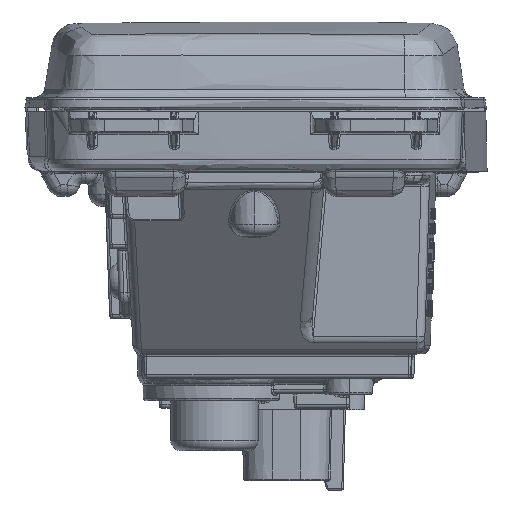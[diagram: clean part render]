
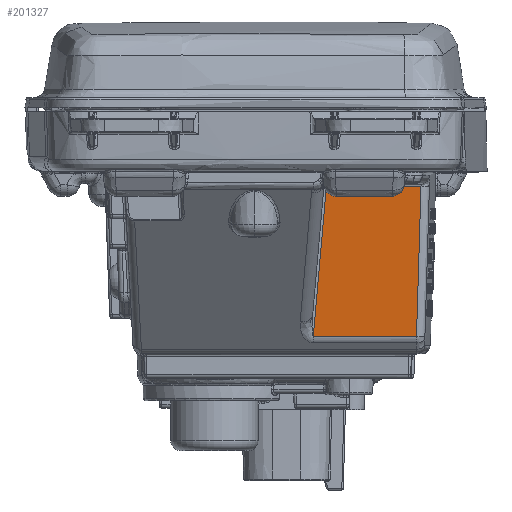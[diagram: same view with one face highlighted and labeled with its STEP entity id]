
A CAD part, left-side view. The second image highlights one B-rep face of the part: STEP entity #201327.
In plain terms, the highlighted planar face has unit normal (-0.996, 0, -0.087).
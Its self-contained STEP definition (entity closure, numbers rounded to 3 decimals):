
#115894=VERTEX_POINT('',#115893) ;
#115956=VERTEX_POINT('',#115955) ;
#201290=VERTEX_POINT('',#201289) ;
#201314=VERTEX_POINT('',#201313) ;
#201294=VECTOR('Line Direction',#201293,1.) ;
#201311=VECTOR('Line Direction',#201310,1.) ;
#201318=VECTOR('Line Direction',#201317,1.) ;
#201293=DIRECTION('Vector Direction',(0.,-1.,0.)) ;
#201305=DIRECTION('Axis2P3D Direction',(-0.996,-0.,-0.087)) ;
#201306=DIRECTION('Axis2P3D XDirection',(0.087,0.,-0.996)) ;
#201310=DIRECTION('Vector Direction',(-0.087,-0.087,0.992)) ;
#201317=DIRECTION('Vector Direction',(0.,-1.,0.)) ;
#115893=CARTESIAN_POINT('Vertex',(-45.96,-33.436,8.544)) ;
#115949=CARTESIAN_POINT('Control Point',(-43.328,-32.528,-21.544)) ;
#115950=CARTESIAN_POINT('Control Point',(-43.854,-32.71,-15.527)) ;
#115951=CARTESIAN_POINT('Control Point',(-44.381,-32.892,-9.509)) ;
#115952=CARTESIAN_POINT('Control Point',(-44.907,-33.074,-3.492)) ;
#115953=CARTESIAN_POINT('Control Point',(-45.434,-33.255,2.526)) ;
#115954=CARTESIAN_POINT('Control Point',(-45.96,-33.436,8.544)) ;
#115955=CARTESIAN_POINT('Vertex',(-43.328,-32.528,-21.544)) ;
#201289=CARTESIAN_POINT('Vertex',(-45.96,-14.458,8.544)) ;
#201292=CARTESIAN_POINT('Line Origine',(-45.96,-27.574,8.544)) ;
#201304=CARTESIAN_POINT('Axis2P3D Location',(-46.,0.,9.)) ;
#201309=CARTESIAN_POINT('Line Origine',(-44.644,-13.142,-6.5)) ;
#201313=CARTESIAN_POINT('Vertex',(-43.328,-11.826,-21.544)) ;
#201316=CARTESIAN_POINT('Line Origine',(-43.328,-22.177,-21.544)) ;
#201307=AXIS2_PLACEMENT_3D('Plane Axis2P3D',#201304,#201305,#201306) ;
#201295=LINE('Line',#201292,#201294) ;
#201312=LINE('Line',#201309,#201311) ;
#201319=LINE('Line',#201316,#201318) ;
#201308=PLANE('',#201307) ;
#115957=EDGE_CURVE('',#115894,#115956,#115948,.F.) ;
#201296=EDGE_CURVE('',#115894,#201290,#201295,.F.) ;
#201315=EDGE_CURVE('',#201314,#201290,#201312,.T.) ;
#201320=EDGE_CURVE('',#115956,#201314,#201319,.F.) ;
#201322=ORIENTED_EDGE('',*,*,#201296,.T.) ;
#201323=ORIENTED_EDGE('',*,*,#201315,.F.) ;
#201324=ORIENTED_EDGE('',*,*,#201320,.F.) ;
#201325=ORIENTED_EDGE('',*,*,#115957,.F.) ;
#201321=EDGE_LOOP('',(#201322,#201323,#201324,#201325)) ;
#201327=ADVANCED_FACE('Housing',(#201326),#201308,.T.) ;
#115948=B_SPLINE_CURVE_WITH_KNOTS('',5,(#115949,#115950,#115951,#115952,#115953,#115954),.UNSPECIFIED.,.F.,.U.,(6,6),(15.64,58.374),.UNIFORM_KNOTS.) ;
#201326=FACE_OUTER_BOUND('',#201321,.T.) ;
